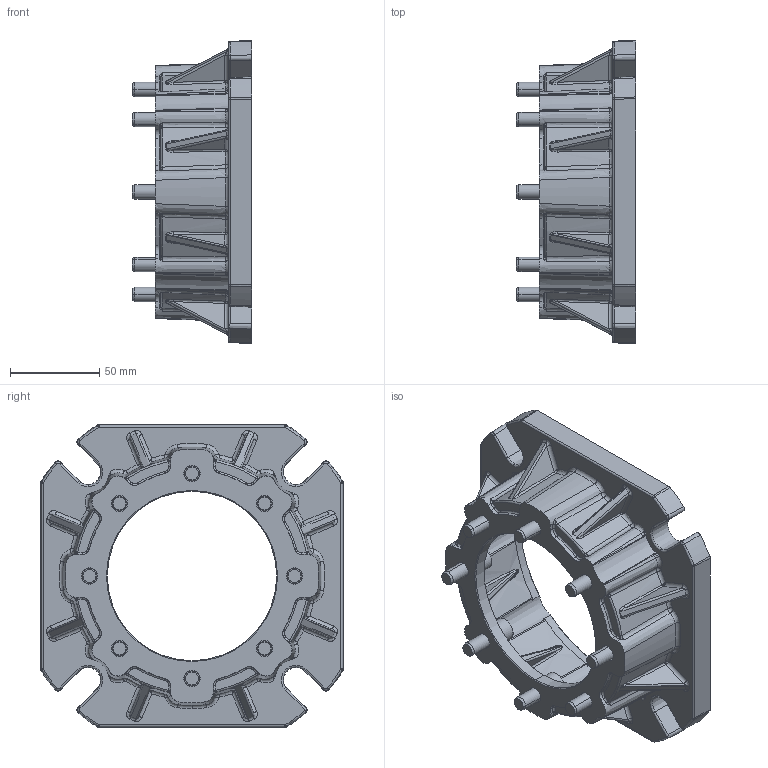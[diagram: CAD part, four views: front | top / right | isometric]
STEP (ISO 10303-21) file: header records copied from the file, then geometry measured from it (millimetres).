
FILE_DESCRIPTION (( 'STEP AP214' ), '1' );
FILE_NAME ('TCM075F.STEP', '2022-11-23T08:26:01', ( '' ), ( '' ), 'SwSTEP 2.0', 'SolidWorks 2020', '' );
FILE_SCHEMA (( 'AUTOMOTIVE_DESIGN' ));
Length unit declared in the file: millimetre
Products named in the file (3): TCM075F; W075051; 6SCHHM822ZC
Assembly tree (9 placements, depth 2):
  TCM075F
    W075051
    6SCHHM822ZC  x8
Bounding box: 67 x 169.95 x 169.95 mm (x, y, z)
Volume: 277881 mm3; surface area: 112005 mm2
Topology: 9 solids, 9 shells, 1438 faces, 3458 edges, 2041 vertices
Faces by surface type: bspline 564, plane 275, cylinder 246, cone 147, torus 142, sphere 64
Entity records: 69564 total; most frequent: CARTESIAN_POINT 29303, ORIENTED_EDGE 6320, DIRECTION 4451, EDGE_CURVE 3160, AXIS2_PLACEMENT_3D 1929, VERTEX_POINT 1873, EDGE_LOOP 1351, ADVANCED_FACE 1312
